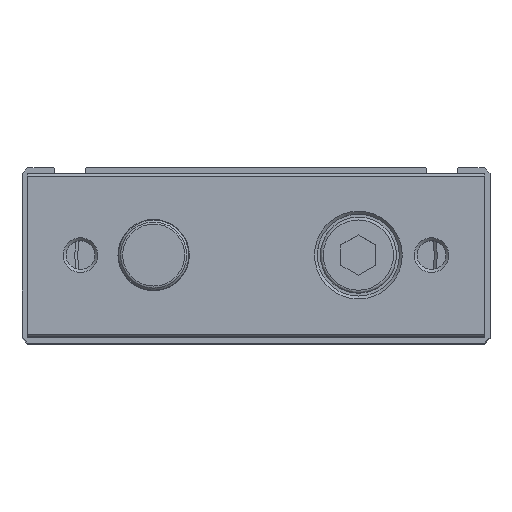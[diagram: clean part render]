
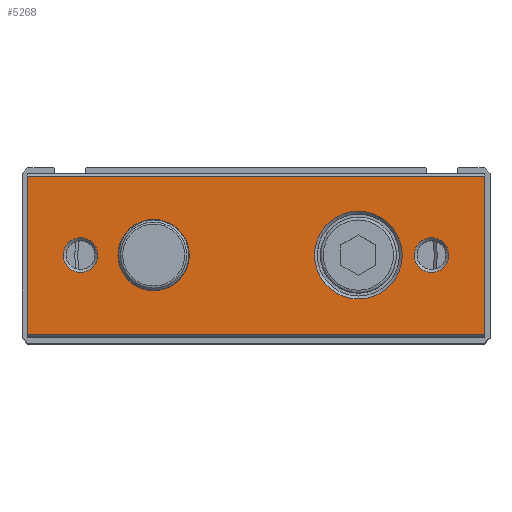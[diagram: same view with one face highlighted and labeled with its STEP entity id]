
A CAD part, top view. The second image highlights one B-rep face of the part: STEP entity #5268.
In plain terms, the highlighted planar face has unit normal (0, 0, 1).
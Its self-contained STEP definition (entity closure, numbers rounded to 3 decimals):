
#3994=CARTESIAN_POINT('',(-39.0,-13.5,156.0));
#3995=VERTEX_POINT('',#3994);
#4002=CARTESIAN_POINT('',(-39.0,13.5,156.0));
#4003=VERTEX_POINT('',#4002);
#4004=CARTESIAN_POINT('',(-39.0,13.5,156.0));
#4005=DIRECTION('',(0.0,-1.0,0.0));
#4006=VECTOR('',#4005,27.);
#4007=LINE('',#4004,#4006);
#4008=EDGE_CURVE('',#4003,#3995,#4007,.T.);
#4122=CARTESIAN_POINT('',(39.0,-13.5,156.0));
#4123=VERTEX_POINT('',#4122);
#4130=CARTESIAN_POINT('',(39.0,-13.5,156.0));
#4131=DIRECTION('',(-1.0,0.0,0.0));
#4132=VECTOR('',#4131,78.0);
#4133=LINE('',#4130,#4132);
#4134=EDGE_CURVE('',#4123,#3995,#4133,.T.);
#4201=CARTESIAN_POINT('',(39.0,13.5,156.0));
#4202=VERTEX_POINT('',#4201);
#4209=CARTESIAN_POINT('',(39.0,-13.5,156.0));
#4210=DIRECTION('',(0.0,1.0,0.0));
#4211=VECTOR('',#4210,27.);
#4212=LINE('',#4209,#4211);
#4213=EDGE_CURVE('',#4123,#4202,#4212,.T.);
#5204=CARTESIAN_POINT('',(-27.042,0.,156.0));
#5205=VERTEX_POINT('',#5204);
#5206=CARTESIAN_POINT('',(-30.0,0.,156.0));
#5207=DIRECTION('',(0.0,0.0,1.0));
#5208=DIRECTION('',(-1.0,0.0,0.0));
#5209=AXIS2_PLACEMENT_3D('',#5206,#5207,#5208);
#5210=CIRCLE('',#5209,2.958);
#5211=EDGE_CURVE('',#5205,#5205,#5210,.T.);
#5216=CARTESIAN_POINT('',(0.0,-14.,156.0));
#5217=DIRECTION('',(0.0,0.0,1.0));
#5218=DIRECTION('',(1.0,0.0,0.0));
#5219=AXIS2_PLACEMENT_3D('',#5216,#5217,#5218);
#5220=PLANE('',#5219);
#5221=ORIENTED_EDGE('',*,*,#4134,.F.);
#5222=ORIENTED_EDGE('',*,*,#4213,.T.);
#5223=CARTESIAN_POINT('',(-39.0,13.5,156.0));
#5224=DIRECTION('',(1.0,0.0,0.0));
#5225=VECTOR('',#5224,78.0);
#5226=LINE('',#5223,#5225);
#5227=EDGE_CURVE('',#4003,#4202,#5226,.T.);
#5228=ORIENTED_EDGE('',*,*,#5227,.F.);
#5229=ORIENTED_EDGE('',*,*,#4008,.T.);
#5230=EDGE_LOOP('',(#5221,#5222,#5228,#5229));
#5231=FACE_OUTER_BOUND('',#5230,.T.);
#5232=CARTESIAN_POINT('',(32.959,0.,156.0));
#5233=VERTEX_POINT('',#5232);
#5234=CARTESIAN_POINT('',(30.0,0.,156.0));
#5235=DIRECTION('',(0.0,0.0,1.0));
#5236=DIRECTION('',(-1.0,0.0,0.0));
#5237=AXIS2_PLACEMENT_3D('',#5234,#5235,#5236);
#5238=CIRCLE('',#5237,2.958);
#5239=EDGE_CURVE('',#5233,#5233,#5238,.T.);
#5240=ORIENTED_EDGE('',*,*,#5239,.F.);
#5241=EDGE_LOOP('',(#5240));
#5242=FACE_BOUND('',#5241,.T.);
#5243=CARTESIAN_POINT('',(-11.4,0.,156.0));
#5244=VERTEX_POINT('',#5243);
#5245=CARTESIAN_POINT('',(-17.5,0.,156.0));
#5246=DIRECTION('',(0.0,0.0,-1.0));
#5247=DIRECTION('',(-1.0,0.0,0.0));
#5248=AXIS2_PLACEMENT_3D('',#5245,#5246,#5247);
#5249=CIRCLE('',#5248,6.1);
#5250=EDGE_CURVE('',#5244,#5244,#5249,.T.);
#5251=ORIENTED_EDGE('',*,*,#5250,.T.);
#5252=EDGE_LOOP('',(#5251));
#5253=FACE_BOUND('',#5252,.T.);
#5254=CARTESIAN_POINT('',(25.0,0.,156.0));
#5255=VERTEX_POINT('',#5254);
#5256=CARTESIAN_POINT('',(17.5,0.,156.0));
#5257=DIRECTION('',(0.0,0.0,1.0));
#5258=DIRECTION('',(-1.0,0.0,0.0));
#5259=AXIS2_PLACEMENT_3D('',#5256,#5257,#5258);
#5260=CIRCLE('',#5259,7.5);
#5261=EDGE_CURVE('',#5255,#5255,#5260,.T.);
#5262=ORIENTED_EDGE('',*,*,#5261,.F.);
#5263=EDGE_LOOP('',(#5262));
#5264=FACE_BOUND('',#5263,.T.);
#5265=ORIENTED_EDGE('',*,*,#5211,.F.);
#5266=EDGE_LOOP('',(#5265));
#5267=FACE_BOUND('',#5266,.T.);
#5268=ADVANCED_FACE('',(#5231,#5242,#5253,#5264,#5267),#5220,.T.);
